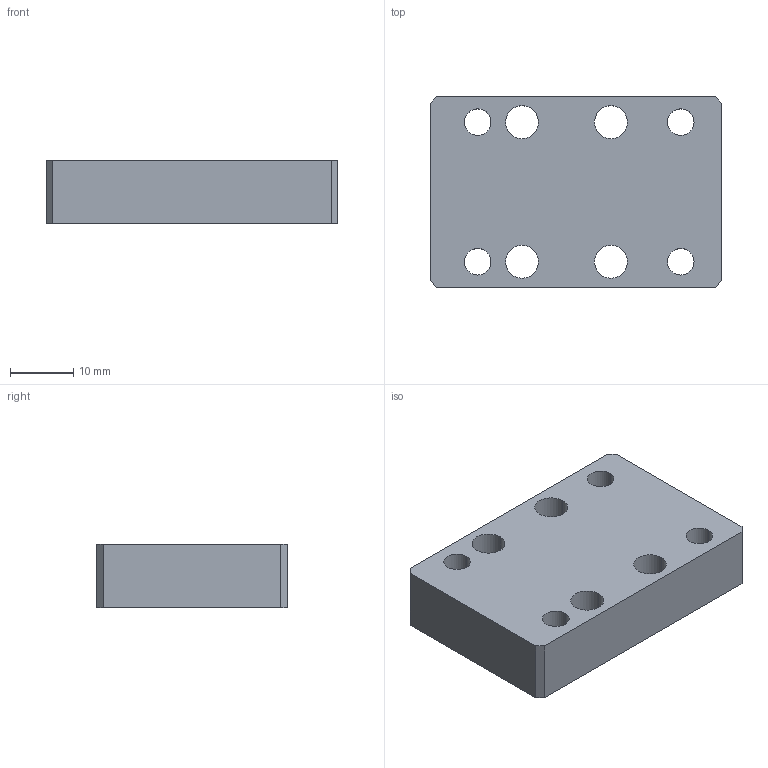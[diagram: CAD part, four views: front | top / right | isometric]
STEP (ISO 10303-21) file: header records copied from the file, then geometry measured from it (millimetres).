
FILE_DESCRIPTION (( 'STEP AP203' ), '1' );
FILE_NAME ('FB-003-56B蟀諉覃誹啣.STEP', '2025-03-19T06:10:09', ( 'Windows 蚚誧' ), ( 'Organization' ), 'SwSTEP 2.0', 'SolidWorks 2020', '' );
FILE_SCHEMA (( 'CONFIG_CONTROL_DESIGN' ));
Length unit declared in the file: millimetre
Products named in the file (1): FB-003-56B蟀諉覃誹啣
Bounding box: 46 x 30 x 10 mm (x, y, z)
Volume: 11882.5 mm3; surface area: 5616.9 mm2
Topology: 1 solids, 1 shells, 34 faces, 92 edges, 58 vertices
Faces by surface type: cylinder 20, plane 10, cone 4
Entity records: 1165 total; most frequent: DIRECTION 198, CARTESIAN_POINT 181, ORIENTED_EDGE 176, EDGE_CURVE 88, AXIS2_PLACEMENT_3D 75, VERTEX_POINT 58, EDGE_LOOP 52, LINE 48
